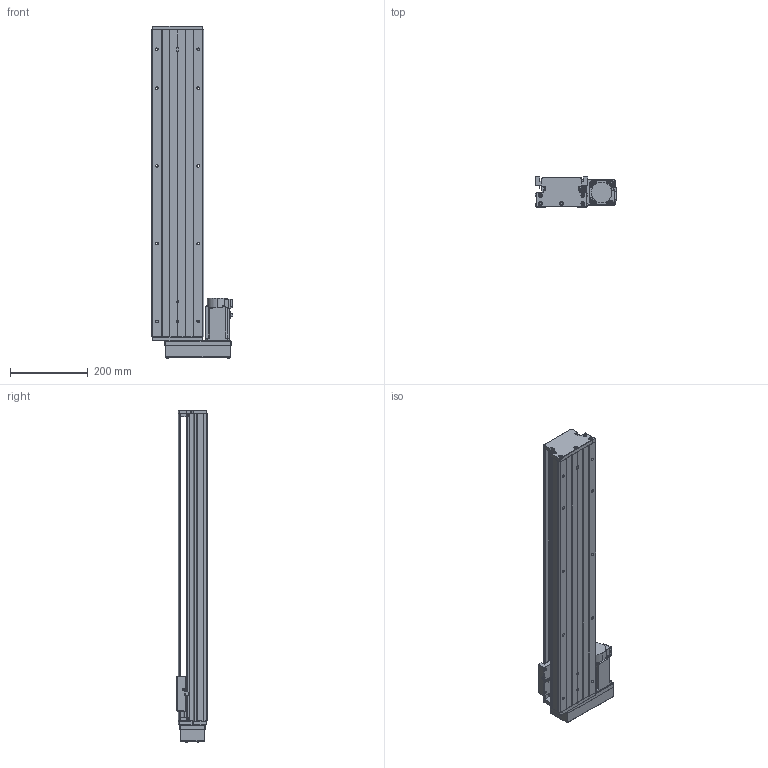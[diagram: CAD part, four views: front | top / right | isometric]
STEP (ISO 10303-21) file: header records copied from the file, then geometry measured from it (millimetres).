
FILE_DESCRIPTION (( 'STEP AP203' ), '1' );
FILE_NAME ('KTH130-650-BR-M40-C4.step', '2023-06-30T04:12:22', ( '微软用户' ), ( '微软中国' ), 'SwSTEP 2.0', 'SolidWorks 2020', '' );
FILE_SCHEMA (( 'CONFIG_CONTROL_DESIGN' ));
Length unit declared in the file: millimetre
Products named in the file (19): GBT 70.3-M3℅8; GTH14-001_650; CTHA60-017; HG-KN43J-S100; KTH130-002_KTH130-002; EE_SX911P_R; GBT 70.2-M4¡Á35_M4¡Á35; KTH130-004; CTHA60-016; GTH14-015-2_CTHA86-015-2; KTH130-005; GBT 70.1-M3℅5; GTH14-033; GB1155-6X6; GBT77-2000 M3×3; KTH130-650-BR-M40-C4; GBT70.1 M5℅16; す晦芛蹟隊 M3℅5; GBT 70.2-M3¡Á5_M3¡Á6
Assembly tree (53 placements, depth 2):
  KTH130-650-BR-M40-C4
    GTH14-001_650
    KTH130-002_KTH130-002
    KTH130-004
    KTH130-005
    GB1155-6X6  x2
    GBT70.1 M5℅16  x10
    GBT 70.2-M3¡Á5_M3¡Á6  x4
    CTHA60-017  x3
    EE_SX911P_R  x3
    CTHA60-016  x2
    GBT 70.1-M3℅5  x6
    GBT77-2000 M3×3  x6
    す晦芛蹟隊 M3℅5  x2
    GBT 70.3-M3℅8  x4
    HG-KN43J-S100
    GBT 70.2-M4¡Á35_M4¡Á35  x4
    GTH14-015-2_CTHA86-015-2
    GTH14-033
Bounding box: 209.3 x 78 x 854.2 mm (x, y, z)
Volume: 4897709.1 mm3; surface area: 802771.9 mm2
Topology: 56 solids, 56 shells, 2223 faces, 5366 edges, 3342 vertices
Faces by surface type: plane 1197, cylinder 612, cone 290, torus 100, sphere 24
Entity records: 40558 total; most frequent: CARTESIAN_POINT 8634, DIRECTION 6039, ORIENTED_EDGE 5932, EDGE_CURVE 2966, AXIS2_PLACEMENT_3D 2078, VERTEX_POINT 1895, VECTOR 1883, LINE 1883
